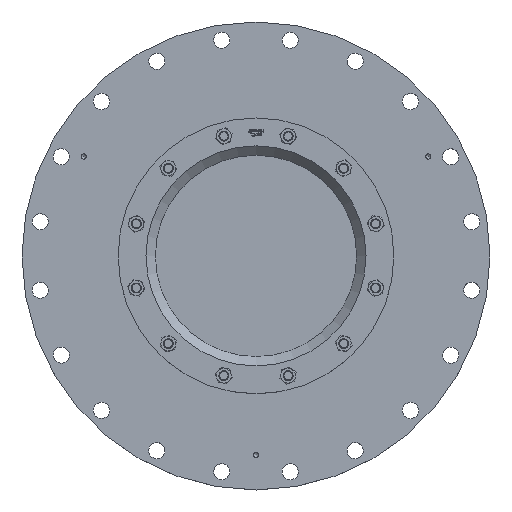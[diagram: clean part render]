
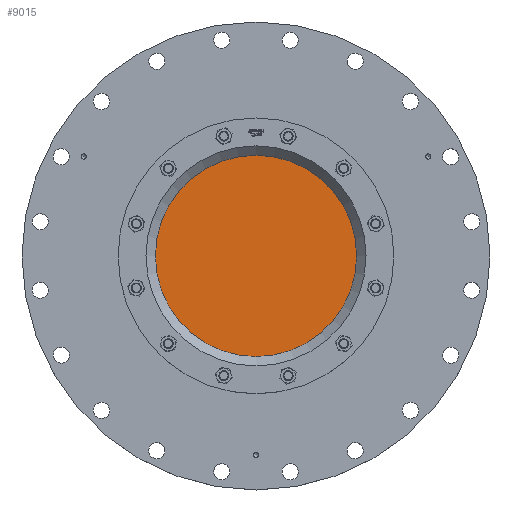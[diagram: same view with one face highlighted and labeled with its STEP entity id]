
A CAD part, top view. The second image highlights one B-rep face of the part: STEP entity #9015.
In plain terms, the highlighted planar face has unit normal (0, 0, 1).
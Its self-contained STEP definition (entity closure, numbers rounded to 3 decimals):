
#2587=FACE_OUTER_BOUND('',#3136,.T.);
#3136=EDGE_LOOP('',(#6234));
#3861=CIRCLE('',#9567,162.5);
#4119=VERTEX_POINT('',#12180);
#4959=EDGE_CURVE('',#4119,#4119,#3861,.T.);
#6234=ORIENTED_EDGE('',*,*,#4959,.F.);
#8784=PLANE('',#9566);
#9015=ADVANCED_FACE('',(#2587),#8784,.F.);
#9566=AXIS2_PLACEMENT_3D('',#12179,#10267,#10268);
#9567=AXIS2_PLACEMENT_3D('',#12181,#10269,#10270);
#10267=DIRECTION('center_axis',(0.,0.,-1.));
#10268=DIRECTION('ref_axis',(-1.,0.,0.));
#10269=DIRECTION('center_axis',(0.,0.,-1.));
#10270=DIRECTION('ref_axis',(-1.,0.,0.));
#12179=CARTESIAN_POINT('Origin',(0.,0.,94.));
#12180=CARTESIAN_POINT('',(162.5,0.,94.));
#12181=CARTESIAN_POINT('Origin',(0.,0.,94.));
